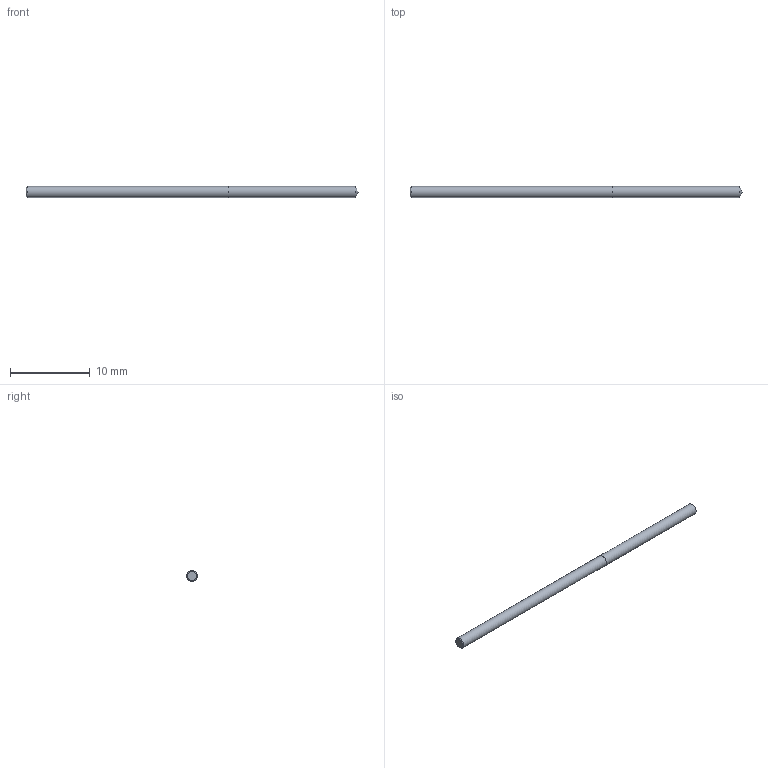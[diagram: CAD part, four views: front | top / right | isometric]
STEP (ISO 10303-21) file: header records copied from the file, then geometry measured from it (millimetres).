
FILE_DESCRIPTION (( 'STEP AP214' ), '1' );
FILE_NAME ('03-2396.STEP', '2022-06-03T07:12:34', ( 'USER' ), ( '' ), 'SwSTEP 2.0', 'SolidWorks 2018', '' );
FILE_SCHEMA (( 'AUTOMOTIVE_DESIGN' ));
Length unit declared in the file: inch
Products named in the file (1): 03-2396
Bounding box: 41.56 x 1.4 x 1.4 mm (x, y, z)
Volume: 63.4 mm3; surface area: 187 mm2
Topology: 2 solids, 2 shells, 7 faces, 11 edges, 7 vertices
Faces by surface type: plane 3, cylinder 2, cone 2
Full cylindrical faces by diameter (mm): 1.397 x2
Entity records: 214 total; most frequent: DIRECTION 26, CARTESIAN_POINT 18, AXIS2_PLACEMENT_3D 13, ORIENTED_EDGE 10, EDGE_LOOP 10, FACE_OUTER_BOUND 9, DIMENSIONAL_EXPONENTS 7, ADVANCED_FACE 7
